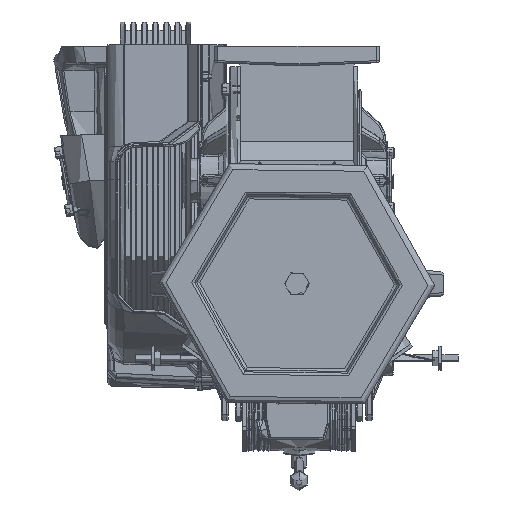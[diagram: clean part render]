
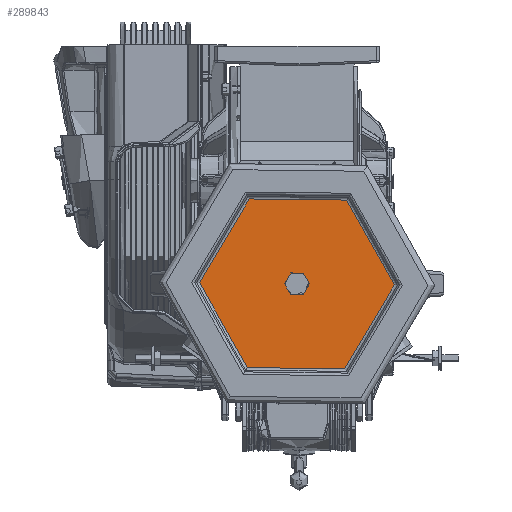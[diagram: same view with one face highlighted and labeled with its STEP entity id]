
A CAD part, front view. The second image highlights one B-rep face of the part: STEP entity #289843.
In plain terms, the highlighted planar face has unit normal (0, -1, 0).
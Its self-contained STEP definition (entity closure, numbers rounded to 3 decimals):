
#15587 = AXIS2_PLACEMENT_3D ( 'NONE', #329859, #197194, #299693 ) ;
#44588 = CARTESIAN_POINT ( 'NONE',  ( -58.811, -546.848, -146.012 ) ) ;
#45898 = CARTESIAN_POINT ( 'NONE',  ( 4.034, -546.848, -40.012 ) ) ;
#59060 = VERTEX_POINT ( 'NONE', #137115 ) ;
#60789 = DIRECTION ( 'NONE',  ( 0.51, 0., 0.86 ) ) ;
#76883 = CARTESIAN_POINT ( 'NONE',  ( 13.27, -546.848, -24.434 ) ) ;
#97596 = VERTEX_POINT ( 'NONE', #209334 ) ;
#107911 = DIRECTION ( 'NONE',  ( 0.51, 0., 0.86 ) ) ;
#119683 = DIRECTION ( 'NONE',  ( 0., -1., 0. ) ) ;
#129633 = CIRCLE ( 'NONE', #317596, 141.34 ) ;
#137115 = CARTESIAN_POINT ( 'NONE',  ( 22.506, -546.848, -8.855 ) ) ;
#146508 = CARTESIAN_POINT ( 'NONE',  ( 13.27, -546.848, -24.434 ) ) ;
#154126 = DIRECTION ( 'NONE',  ( 0.51, 0., 0.86 ) ) ;
#159598 = EDGE_CURVE ( 'NONE', #318162, #97596, #129633, .T. ) ;
#168435 = DIRECTION ( 'NONE',  ( 0.51, 0., 0.86 ) ) ;
#179333 = DIRECTION ( 'NONE',  ( 0., -1., 0. ) ) ;
#180987 = CIRCLE ( 'NONE', #245570, 141.34 ) ;
#182006 = ORIENTED_EDGE ( 'NONE', *, *, #213991, .T. ) ;
#188488 = DIRECTION ( 'NONE',  ( 0., -1., 0. ) ) ;
#191783 = PLANE ( 'NONE',  #282641 ) ;
#193453 = FACE_OUTER_BOUND ( 'NONE', #250675, .T. ) ;
#197194 = DIRECTION ( 'NONE',  ( 0., -1., 0. ) ) ;
#203704 = ORIENTED_EDGE ( 'NONE', *, *, #315211, .F. ) ;
#209334 = CARTESIAN_POINT ( 'NONE',  ( 85.351, -546.848, 97.144 ) ) ;
#213991 = EDGE_CURVE ( 'NONE', #97596, #318162, #180987, .T. ) ;
#220346 = FACE_BOUND ( 'NONE', #320420, .T. ) ;
#226849 = ORIENTED_EDGE ( 'NONE', *, *, #311225, .F. ) ;
#238949 = CARTESIAN_POINT ( 'NONE',  ( 13.27, -546.848, -24.434 ) ) ;
#245570 = AXIS2_PLACEMENT_3D ( 'NONE', #76883, #179333, #154126 ) ;
#247739 = AXIS2_PLACEMENT_3D ( 'NONE', #146508, #119683, #168435 ) ;
#250675 = EDGE_LOOP ( 'NONE', ( #182006, #321578 ) ) ;
#256866 = CIRCLE ( 'NONE', #15587, 18.111 ) ;
#263816 = CIRCLE ( 'NONE', #247739, 18.111 ) ;
#264524 = VERTEX_POINT ( 'NONE', #45898 ) ;
#282641 = AXIS2_PLACEMENT_3D ( 'NONE', #297595, #188488, #60789 ) ;
#289843 = ADVANCED_FACE ( 'NONE', ( #193453, #220346 ), #191783, .T. ) ;
#291028 = DIRECTION ( 'NONE',  ( 0., -1., 0. ) ) ;
#297595 = CARTESIAN_POINT ( 'NONE',  ( -108.308, -546.848, 47.648 ) ) ;
#299693 = DIRECTION ( 'NONE',  ( 0.51, 0., 0.86 ) ) ;
#311225 = EDGE_CURVE ( 'NONE', #59060, #264524, #256866, .T. ) ;
#315211 = EDGE_CURVE ( 'NONE', #264524, #59060, #263816, .T. ) ;
#317596 = AXIS2_PLACEMENT_3D ( 'NONE', #238949, #291028, #107911 ) ;
#318162 = VERTEX_POINT ( 'NONE', #44588 ) ;
#320420 = EDGE_LOOP ( 'NONE', ( #203704, #226849 ) ) ;
#321578 = ORIENTED_EDGE ( 'NONE', *, *, #159598, .T. ) ;
#329859 = CARTESIAN_POINT ( 'NONE',  ( 13.27, -546.848, -24.434 ) ) ;
